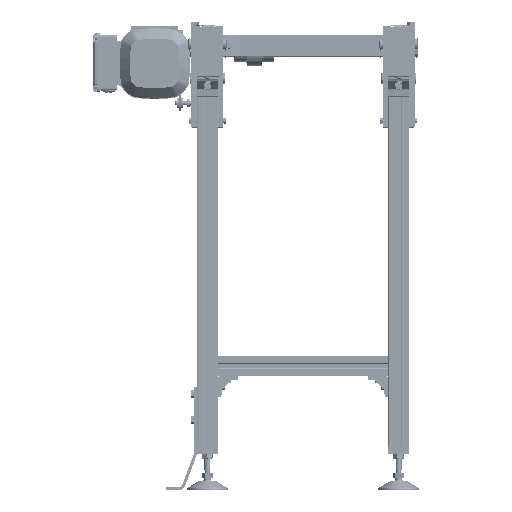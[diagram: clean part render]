
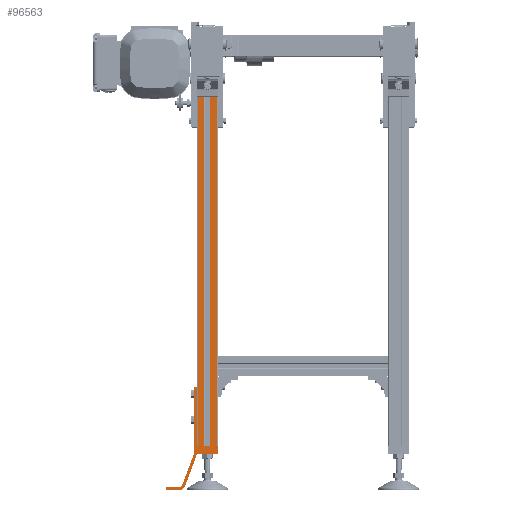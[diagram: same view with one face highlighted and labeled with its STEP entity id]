
A CAD part, left-side view. The second image highlights one B-rep face of the part: STEP entity #96563.
In plain terms, the highlighted planar face has unit normal (-1, 0, 0).
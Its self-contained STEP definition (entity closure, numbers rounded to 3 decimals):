
#5567=CIRCLE('',#103220,12.);
#5568=CIRCLE('',#103221,6.);
#5569=CIRCLE('',#103222,12.);
#5570=CIRCLE('',#103223,12.);
#9671=FACE_OUTER_BOUND('',#15325,.T.);
#15325=EDGE_LOOP('',(#68142,#68143,#68144,#68145,#68146,#68147,#68148,#68149,
#68150,#68151,#68152,#68153,#68154,#68155,#68156,#68157,#68158,#68159,#68160,
#68161,#68162,#68163,#68164,#68165));
#22550=LINE('',#146300,#31236);
#22713=LINE('',#146947,#31399);
#22714=LINE('',#146948,#31400);
#22740=LINE('',#147019,#31426);
#22741=LINE('',#147021,#31427);
#22742=LINE('',#147023,#31428);
#22743=LINE('',#147025,#31429);
#22744=LINE('',#147027,#31430);
#22745=LINE('',#147031,#31431);
#22746=LINE('',#147035,#31432);
#22747=LINE('',#147037,#31433);
#22748=LINE('',#147039,#31434);
#22749=LINE('',#147043,#31435);
#22750=LINE('',#147047,#31436);
#22751=LINE('',#147048,#31437);
#22752=LINE('',#147050,#31438);
#22753=LINE('',#147051,#31439);
#22754=LINE('',#147053,#31440);
#22755=LINE('',#147055,#31441);
#22756=LINE('',#147056,#31442);
#31236=VECTOR('',#117959,15.);
#31399=VECTOR('',#118338,13.45);
#31400=VECTOR('',#118339,13.45);
#31426=VECTOR('',#118419,675.);
#31427=VECTOR('',#118420,1.);
#31428=VECTOR('',#118421,115.);
#31429=VECTOR('',#118422,6.);
#31430=VECTOR('',#118423,128.703);
#31431=VECTOR('',#118426,62.015);
#31432=VECTOR('',#118429,25.951);
#31433=VECTOR('',#118430,6.);
#31434=VECTOR('',#118431,25.933);
#31435=VECTOR('',#118434,63.225);
#31436=VECTOR('',#118437,1.249);
#31437=VECTOR('',#118438,40.);
#31438=VECTOR('',#118439,1.);
#31439=VECTOR('',#118440,675.);
#31440=VECTOR('',#118441,675.);
#31441=VECTOR('',#118442,11.1);
#31442=VECTOR('',#118443,675.);
#40050=VERTEX_POINT('',#146297);
#40051=VERTEX_POINT('',#146299);
#40167=VERTEX_POINT('',#146727);
#40170=VERTEX_POINT('',#146732);
#40172=VERTEX_POINT('',#146738);
#40176=VERTEX_POINT('',#146747);
#40229=VERTEX_POINT('',#147018);
#40230=VERTEX_POINT('',#147020);
#40231=VERTEX_POINT('',#147022);
#40232=VERTEX_POINT('',#147024);
#40233=VERTEX_POINT('',#147026);
#40234=VERTEX_POINT('',#147028);
#40235=VERTEX_POINT('',#147030);
#40236=VERTEX_POINT('',#147032);
#40237=VERTEX_POINT('',#147034);
#40238=VERTEX_POINT('',#147036);
#40239=VERTEX_POINT('',#147038);
#40240=VERTEX_POINT('',#147040);
#40241=VERTEX_POINT('',#147042);
#40242=VERTEX_POINT('',#147044);
#40243=VERTEX_POINT('',#147046);
#40244=VERTEX_POINT('',#147049);
#40245=VERTEX_POINT('',#147052);
#40246=VERTEX_POINT('',#147054);
#50387=EDGE_CURVE('',#40050,#40051,#22550,.T.);
#50609=EDGE_CURVE('',#40167,#40172,#22713,.T.);
#50610=EDGE_CURVE('',#40176,#40170,#22714,.T.);
#50641=EDGE_CURVE('',#40229,#40172,#22740,.T.);
#50642=EDGE_CURVE('',#40229,#40230,#22741,.T.);
#50643=EDGE_CURVE('',#40231,#40230,#22742,.T.);
#50644=EDGE_CURVE('',#40232,#40231,#22743,.T.);
#50645=EDGE_CURVE('',#40233,#40232,#22744,.T.);
#50646=EDGE_CURVE('',#40234,#40233,#5567,.T.);
#50647=EDGE_CURVE('',#40235,#40234,#22745,.T.);
#50648=EDGE_CURVE('',#40236,#40235,#5568,.T.);
#50649=EDGE_CURVE('',#40237,#40236,#22746,.T.);
#50650=EDGE_CURVE('',#40238,#40237,#22747,.T.);
#50651=EDGE_CURVE('',#40239,#40238,#22748,.T.);
#50652=EDGE_CURVE('',#40240,#40239,#5569,.T.);
#50653=EDGE_CURVE('',#40241,#40240,#22749,.T.);
#50654=EDGE_CURVE('',#40242,#40241,#5570,.T.);
#50655=EDGE_CURVE('',#40242,#40243,#22750,.T.);
#50656=EDGE_CURVE('',#40243,#40051,#22751,.T.);
#50657=EDGE_CURVE('',#40050,#40244,#22752,.T.);
#50658=EDGE_CURVE('',#40244,#40176,#22753,.T.);
#50659=EDGE_CURVE('',#40245,#40170,#22754,.T.);
#50660=EDGE_CURVE('',#40245,#40246,#22755,.T.);
#50661=EDGE_CURVE('',#40246,#40167,#22756,.T.);
#68142=ORIENTED_EDGE('',*,*,#50609,.T.);
#68143=ORIENTED_EDGE('',*,*,#50641,.F.);
#68144=ORIENTED_EDGE('',*,*,#50642,.T.);
#68145=ORIENTED_EDGE('',*,*,#50643,.F.);
#68146=ORIENTED_EDGE('',*,*,#50644,.F.);
#68147=ORIENTED_EDGE('',*,*,#50645,.F.);
#68148=ORIENTED_EDGE('',*,*,#50646,.F.);
#68149=ORIENTED_EDGE('',*,*,#50647,.F.);
#68150=ORIENTED_EDGE('',*,*,#50648,.F.);
#68151=ORIENTED_EDGE('',*,*,#50649,.F.);
#68152=ORIENTED_EDGE('',*,*,#50650,.F.);
#68153=ORIENTED_EDGE('',*,*,#50651,.F.);
#68154=ORIENTED_EDGE('',*,*,#50652,.F.);
#68155=ORIENTED_EDGE('',*,*,#50653,.F.);
#68156=ORIENTED_EDGE('',*,*,#50654,.F.);
#68157=ORIENTED_EDGE('',*,*,#50655,.T.);
#68158=ORIENTED_EDGE('',*,*,#50656,.T.);
#68159=ORIENTED_EDGE('',*,*,#50387,.F.);
#68160=ORIENTED_EDGE('',*,*,#50657,.T.);
#68161=ORIENTED_EDGE('',*,*,#50658,.T.);
#68162=ORIENTED_EDGE('',*,*,#50610,.T.);
#68163=ORIENTED_EDGE('',*,*,#50659,.F.);
#68164=ORIENTED_EDGE('',*,*,#50660,.T.);
#68165=ORIENTED_EDGE('',*,*,#50661,.T.);
#87449=PLANE('',#103219);
#96563=ADVANCED_FACE('',(#9671),#87449,.T.);
#103219=AXIS2_PLACEMENT_3D('',#147017,#118417,#118418);
#103220=AXIS2_PLACEMENT_3D('',#147029,#118424,#118425);
#103221=AXIS2_PLACEMENT_3D('',#147033,#118427,#118428);
#103222=AXIS2_PLACEMENT_3D('',#147041,#118432,#118433);
#103223=AXIS2_PLACEMENT_3D('',#147045,#118435,#118436);
#117959=DIRECTION('',(0.,0.,-1.));
#118338=DIRECTION('',(0.,1.,0.));
#118339=DIRECTION('',(0.,1.,0.));
#118417=DIRECTION('center_axis',(-1.,0.,0.));
#118418=DIRECTION('ref_axis',(0.,-1.,0.));
#118419=DIRECTION('',(0.,0.,1.));
#118420=DIRECTION('',(0.,1.,0.));
#118421=DIRECTION('',(0.,0.,-1.));
#118422=DIRECTION('',(0.,-1.,0.));
#118423=DIRECTION('',(0.,0.,1.));
#118424=DIRECTION('center_axis',(-1.,0.,0.));
#118425=DIRECTION('ref_axis',(0.,1.,0.));
#118426=DIRECTION('',(0.,-0.353,0.936));
#118427=DIRECTION('center_axis',(-1.,0.,0.));
#118428=DIRECTION('ref_axis',(0.,0.977,0.214));
#118429=DIRECTION('',(0.,-1.,0.));
#118430=DIRECTION('',(0.,0.,1.));
#118431=DIRECTION('',(0.,1.,0.));
#118432=DIRECTION('center_axis',(1.,0.,0.));
#118433=DIRECTION('ref_axis',(0.,-0.977,
-0.212));
#118434=DIRECTION('',(0.,0.349,-0.937));
#118435=DIRECTION('center_axis',(1.,0.,0.));
#118436=DIRECTION('ref_axis',(0.,-1.,0.));
#118437=DIRECTION('',(0.,0.,-1.));
#118438=DIRECTION('',(0.,-1.,0.));
#118439=DIRECTION('',(0.,1.,0.));
#118440=DIRECTION('',(0.,0.,1.));
#118441=DIRECTION('',(0.,0.,1.));
#118442=DIRECTION('',(0.,1.,0.));
#118443=DIRECTION('',(0.,0.,1.));
#146297=CARTESIAN_POINT('',(203.,165.,-715.));
#146299=CARTESIAN_POINT('',(203.,165.,-730.));
#146300=CARTESIAN_POINT('',(203.,165.,-715.));
#146727=CARTESIAN_POINT('',(203.,190.55,-40.));
#146732=CARTESIAN_POINT('',(203.,179.45,-40.));
#146738=CARTESIAN_POINT('',(203.,204.,-40.));
#146747=CARTESIAN_POINT('',(203.,166.,-40.));
#146947=CARTESIAN_POINT('',(203.,194.5,-40.));
#146948=CARTESIAN_POINT('',(203.,194.5,-40.));
#147017=CARTESIAN_POINT('Origin',(203.,204.,-715.));
#147018=CARTESIAN_POINT('',(203.,204.,-715.));
#147019=CARTESIAN_POINT('',(203.,204.,-715.));
#147020=CARTESIAN_POINT('',(203.,205.,-715.));
#147021=CARTESIAN_POINT('',(203.,165.,-715.));
#147022=CARTESIAN_POINT('',(203.,205.,-600.));
#147023=CARTESIAN_POINT('',(203.,205.,-600.));
#147024=CARTESIAN_POINT('',(203.,211.,-600.));
#147025=CARTESIAN_POINT('',(203.,211.,-600.));
#147026=CARTESIAN_POINT('',(203.,211.,-728.703));
#147027=CARTESIAN_POINT('',(203.,211.,-728.703));
#147028=CARTESIAN_POINT('',(203.,211.277,-731.267));
#147029=CARTESIAN_POINT('Origin',(203.,223.,-728.703));
#147030=CARTESIAN_POINT('',(203.,233.188,-789.282));
#147031=CARTESIAN_POINT('',(203.,233.188,-789.282));
#147032=CARTESIAN_POINT('',(203.,239.049,-794.));
#147033=CARTESIAN_POINT('Origin',(203.,239.049,-788.));
#147034=CARTESIAN_POINT('',(203.,265.,-794.));
#147035=CARTESIAN_POINT('',(203.,265.,-794.));
#147036=CARTESIAN_POINT('',(203.,265.,-800.));
#147037=CARTESIAN_POINT('',(203.,265.,-800.));
#147038=CARTESIAN_POINT('',(203.,239.067,-800.));
#147039=CARTESIAN_POINT('',(203.,239.067,-800.));
#147040=CARTESIAN_POINT('',(203.,227.34,-790.543));
#147041=CARTESIAN_POINT('Origin',(203.,239.067,-788.));
#147042=CARTESIAN_POINT('',(203.,205.273,-731.294));
#147043=CARTESIAN_POINT('',(203.,205.273,-731.294));
#147044=CARTESIAN_POINT('',(203.,205.,-728.751));
#147045=CARTESIAN_POINT('Origin',(203.,217.,-728.751));
#147046=CARTESIAN_POINT('',(203.,205.,-730.));
#147047=CARTESIAN_POINT('',(203.,205.,-715.));
#147048=CARTESIAN_POINT('',(203.,165.,-730.));
#147049=CARTESIAN_POINT('',(203.,166.,-715.));
#147050=CARTESIAN_POINT('',(203.,165.,-715.));
#147051=CARTESIAN_POINT('',(203.,166.,-715.));
#147052=CARTESIAN_POINT('',(203.,179.45,-715.));
#147053=CARTESIAN_POINT('',(203.,179.45,-715.));
#147054=CARTESIAN_POINT('',(203.,190.55,-715.));
#147055=CARTESIAN_POINT('',(203.,165.,-715.));
#147056=CARTESIAN_POINT('',(203.,190.55,-715.));
